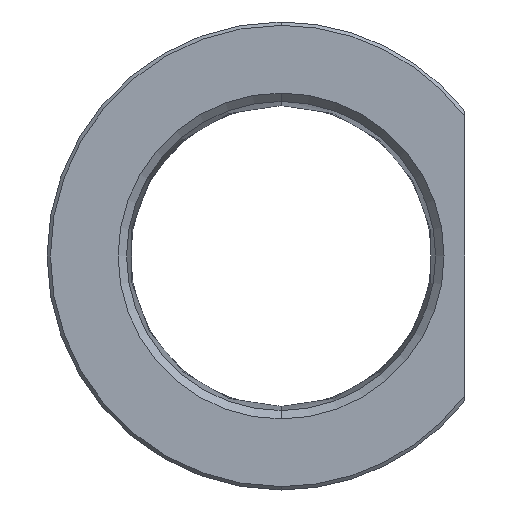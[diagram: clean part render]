
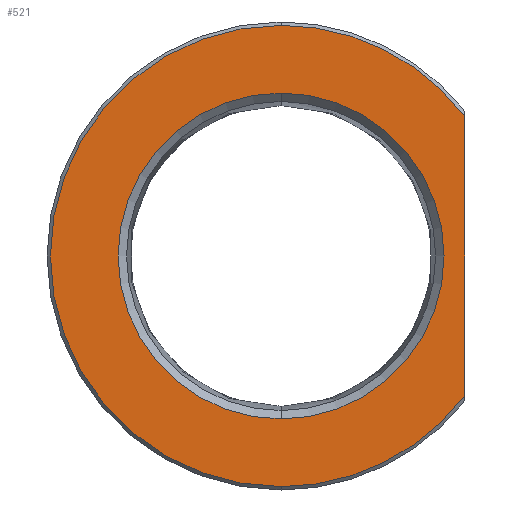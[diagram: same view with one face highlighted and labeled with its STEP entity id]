
A CAD part, front view. The second image highlights one B-rep face of the part: STEP entity #521.
In plain terms, the highlighted planar face has unit normal (0, -1, 0).
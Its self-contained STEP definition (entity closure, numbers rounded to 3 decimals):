
#30 = ORIENTED_EDGE ( 'NONE', *, *, #699, .T. ) ;
#45 = ORIENTED_EDGE ( 'NONE', *, *, #87, .T. ) ;
#62 = CARTESIAN_POINT ( 'NONE',  ( 0., 0., -9.75 ) ) ;
#87 = EDGE_CURVE ( 'NONE', #99, #453, #533, .T. ) ;
#88 = LINE ( 'NONE', #177, #587 ) ;
#97 = ORIENTED_EDGE ( 'NONE', *, *, #749, .F. ) ;
#99 = VERTEX_POINT ( 'NONE', #479 ) ;
#125 = CIRCLE ( 'NONE', #626, 13.8 ) ;
#129 = DIRECTION ( 'NONE',  ( 0., 0., -1. ) ) ;
#145 = DIRECTION ( 'NONE',  ( 0., -1., 0. ) ) ;
#162 = ORIENTED_EDGE ( 'NONE', *, *, #216, .T. ) ;
#177 = CARTESIAN_POINT ( 'NONE',  ( 11., 0., 8.66 ) ) ;
#202 = PLANE ( 'NONE',  #665 ) ;
#215 = DIRECTION ( 'NONE',  ( 0., -1., 0. ) ) ;
#216 = EDGE_CURVE ( 'NONE', #453, #365, #125, .T. ) ;
#225 = CIRCLE ( 'NONE', #692, 13.8 ) ;
#237 = DIRECTION ( 'NONE',  ( 0., 0., -1. ) ) ;
#244 = VERTEX_POINT ( 'NONE', #503 ) ;
#273 = AXIS2_PLACEMENT_3D ( 'NONE', #642, #706, #509 ) ;
#278 = ORIENTED_EDGE ( 'NONE', *, *, #498, .T. ) ;
#296 = EDGE_LOOP ( 'NONE', ( #97, #522, #45, #162 ) ) ;
#335 = VERTEX_POINT ( 'NONE', #62 ) ;
#348 = DIRECTION ( 'NONE',  ( 0., 0., -1. ) ) ;
#354 = DIRECTION ( 'NONE',  ( 0., 1., 0. ) ) ;
#362 = CIRCLE ( 'NONE', #476, 9.75 ) ;
#365 = VERTEX_POINT ( 'NONE', #763 ) ;
#412 = CARTESIAN_POINT ( 'NONE',  ( 0., 0., 9.75 ) ) ;
#424 = DIRECTION ( 'NONE',  ( 0., 0., -1. ) ) ;
#453 = VERTEX_POINT ( 'NONE', #513 ) ;
#457 = DIRECTION ( 'NONE',  ( 0., 0., -1. ) ) ;
#476 = AXIS2_PLACEMENT_3D ( 'NONE', #611, #354, #424 ) ;
#479 = CARTESIAN_POINT ( 'NONE',  ( 0., 0., 13.8 ) ) ;
#498 = EDGE_CURVE ( 'NONE', #609, #335, #527, .T. ) ;
#503 = CARTESIAN_POINT ( 'NONE',  ( 11., 0., 8.333 ) ) ;
#508 = DIRECTION ( 'NONE',  ( 0., -1., 0. ) ) ;
#509 = DIRECTION ( 'NONE',  ( 0., 0., -1. ) ) ;
#513 = CARTESIAN_POINT ( 'NONE',  ( 0., 0., -13.8 ) ) ;
#515 = FACE_BOUND ( 'NONE', #622, .T. ) ;
#519 = DIRECTION ( 'NONE',  ( 0., 0., -1. ) ) ;
#521 = ADVANCED_FACE ( 'NONE', ( #515, #775 ), #202, .T. ) ;
#522 = ORIENTED_EDGE ( 'NONE', *, *, #600, .T. ) ;
#527 = CIRCLE ( 'NONE', #273, 9.75 ) ;
#533 = CIRCLE ( 'NONE', #568, 13.8 ) ;
#562 = CARTESIAN_POINT ( 'NONE',  ( 0., 0., 0. ) ) ;
#568 = AXIS2_PLACEMENT_3D ( 'NONE', #562, #681, #237 ) ;
#587 = VECTOR ( 'NONE', #348, 1000. ) ;
#600 = EDGE_CURVE ( 'NONE', #244, #99, #225, .T. ) ;
#604 = CARTESIAN_POINT ( 'NONE',  ( 0., 0., 0. ) ) ;
#609 = VERTEX_POINT ( 'NONE', #412 ) ;
#611 = CARTESIAN_POINT ( 'NONE',  ( 0., 0., 0. ) ) ;
#622 = EDGE_LOOP ( 'NONE', ( #30, #278 ) ) ;
#626 = AXIS2_PLACEMENT_3D ( 'NONE', #773, #508, #129 ) ;
#642 = CARTESIAN_POINT ( 'NONE',  ( 0., 0., 0. ) ) ;
#650 = CARTESIAN_POINT ( 'NONE',  ( -14., 0., 0. ) ) ;
#665 = AXIS2_PLACEMENT_3D ( 'NONE', #650, #145, #519 ) ;
#681 = DIRECTION ( 'NONE',  ( 0., -1., 0. ) ) ;
#692 = AXIS2_PLACEMENT_3D ( 'NONE', #604, #215, #457 ) ;
#699 = EDGE_CURVE ( 'NONE', #335, #609, #362, .T. ) ;
#706 = DIRECTION ( 'NONE',  ( 0., 1., 0. ) ) ;
#749 = EDGE_CURVE ( 'NONE', #244, #365, #88, .T. ) ;
#763 = CARTESIAN_POINT ( 'NONE',  ( 11., 0., -8.333 ) ) ;
#773 = CARTESIAN_POINT ( 'NONE',  ( 0., 0., 0. ) ) ;
#775 = FACE_OUTER_BOUND ( 'NONE', #296, .T. ) ;
